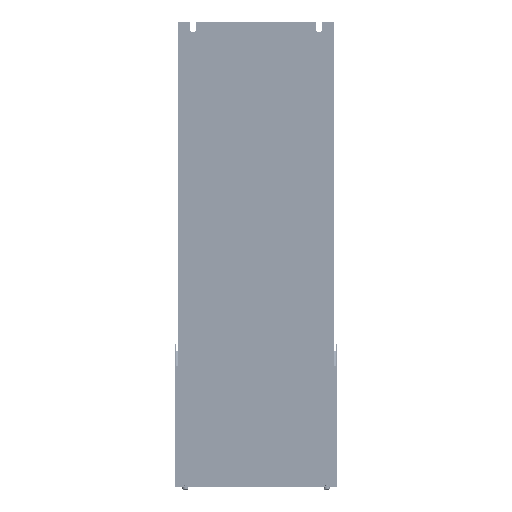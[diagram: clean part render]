
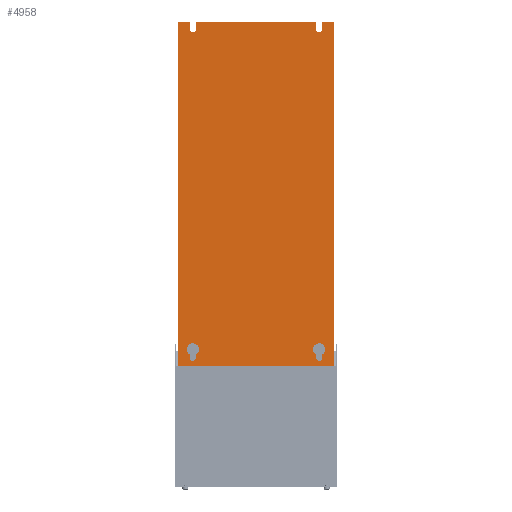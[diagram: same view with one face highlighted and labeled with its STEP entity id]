
A CAD part, front view. The second image highlights one B-rep face of the part: STEP entity #4958.
In plain terms, the highlighted planar face has unit normal (0, -1, 0).
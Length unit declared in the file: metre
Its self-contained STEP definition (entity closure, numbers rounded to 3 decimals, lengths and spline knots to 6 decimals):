
#4958=ADVANCED_FACE('',(#15051,#15052,#15053),#15054,.T.);
#15051=FACE_BOUND('',#35083,.T.);
#15052=FACE_OUTER_BOUND('',#35084,.T.);
#15053=FACE_BOUND('',#35085,.T.);
#15054=PLANE('',#35086);
#35083=EDGE_LOOP('',(#61775,#61776,#61777,#61778,#61779));
#35084=EDGE_LOOP('',(#61780,#61781,#61782,#61783,#61784,#61785,#61786,#61787,#61788,#61789,#61790,#61791));
#35085=EDGE_LOOP('',(#61792,#61793,#61794,#61795,#61796));
#35086=AXIS2_PLACEMENT_3D('',#61797,#61798,#61799);
#61775=ORIENTED_EDGE('',*,*,#128735,.T.);
#61776=ORIENTED_EDGE('',*,*,#129023,.T.);
#61777=ORIENTED_EDGE('',*,*,#129040,.T.);
#61778=ORIENTED_EDGE('',*,*,#129039,.T.);
#61779=ORIENTED_EDGE('',*,*,#129034,.T.);
#61780=ORIENTED_EDGE('',*,*,#131443,.T.);
#61781=ORIENTED_EDGE('',*,*,#128991,.F.);
#61782=ORIENTED_EDGE('',*,*,#129736,.F.);
#61783=ORIENTED_EDGE('',*,*,#129773,.T.);
#61784=ORIENTED_EDGE('',*,*,#129770,.T.);
#61785=ORIENTED_EDGE('',*,*,#129767,.F.);
#61786=ORIENTED_EDGE('',*,*,#131444,.F.);
#61787=ORIENTED_EDGE('',*,*,#131445,.T.);
#61788=ORIENTED_EDGE('',*,*,#131446,.T.);
#61789=ORIENTED_EDGE('',*,*,#131447,.F.);
#61790=ORIENTED_EDGE('',*,*,#131448,.F.);
#61791=ORIENTED_EDGE('',*,*,#131449,.T.);
#61792=ORIENTED_EDGE('',*,*,#128520,.T.);
#61793=ORIENTED_EDGE('',*,*,#131450,.T.);
#61794=ORIENTED_EDGE('',*,*,#131451,.T.);
#61795=ORIENTED_EDGE('',*,*,#131452,.T.);
#61796=ORIENTED_EDGE('',*,*,#131453,.T.);
#61797=CARTESIAN_POINT('',(-0.155,0.0,0.34));
#61798=DIRECTION('',(0.0,-1.0,0.0));
#61799=DIRECTION('',(0.0,0.0,-1.0));
#128520=EDGE_CURVE('',#153750,#153747,#153751,.T.);
#128735=EDGE_CURVE('',#154168,#154165,#154169,.T.);
#128991=EDGE_CURVE('',#154606,#154608,#154609,.T.);
#129023=EDGE_CURVE('',#154165,#154655,#154657,.T.);
#129034=EDGE_CURVE('',#154670,#154168,#154671,.T.);
#129039=EDGE_CURVE('',#154675,#154670,#154679,.T.);
#129040=EDGE_CURVE('',#154655,#154675,#154680,.T.);
#129736=EDGE_CURVE('',#155851,#154606,#155854,.T.);
#129767=EDGE_CURVE('',#155902,#155905,#155906,.T.);
#129770=EDGE_CURVE('',#155910,#155905,#155911,.T.);
#129773=EDGE_CURVE('',#155851,#155910,#155915,.T.);
#131443=EDGE_CURVE('',#158685,#154608,#158686,.T.);
#131444=EDGE_CURVE('',#158687,#155902,#158688,.T.);
#131445=EDGE_CURVE('',#158687,#158689,#158690,.T.);
#131446=EDGE_CURVE('',#158689,#158691,#158692,.T.);
#131447=EDGE_CURVE('',#158693,#158691,#158694,.T.);
#131448=EDGE_CURVE('',#158695,#158693,#158696,.T.);
#131449=EDGE_CURVE('',#158695,#158685,#158697,.T.);
#131450=EDGE_CURVE('',#153747,#158698,#158699,.T.);
#131451=EDGE_CURVE('',#158698,#158700,#158701,.T.);
#131452=EDGE_CURVE('',#158700,#158702,#158703,.T.);
#131453=EDGE_CURVE('',#158702,#153750,#158704,.T.);
#153747=VERTEX_POINT('',#194659);
#153750=VERTEX_POINT('',#194663);
#153751=CIRCLE('',#194664,0.012);
#154165=VERTEX_POINT('',#195274);
#154168=VERTEX_POINT('',#195278);
#154169=CIRCLE('',#195279,0.012);
#154606=VERTEX_POINT('',#195921);
#154608=VERTEX_POINT('',#195924);
#154609=LINE('',#195925,#195926);
#154655=VERTEX_POINT('',#195983);
#154657=CIRCLE('',#195986,0.012);
#154670=VERTEX_POINT('',#196005);
#154671=LINE('',#196006,#196007);
#154675=VERTEX_POINT('',#196013);
#154679=CIRCLE('',#196018,0.00575);
#154680=LINE('',#196019,#196020);
#155851=VERTEX_POINT('',#197865);
#155854=LINE('',#197869,#197870);
#155902=VERTEX_POINT('',#197947);
#155905=VERTEX_POINT('',#197951);
#155906=LINE('',#197952,#197953);
#155910=VERTEX_POINT('',#197959);
#155911=CIRCLE('',#197960,0.00575);
#155915=LINE('',#197965,#197966);
#158685=VERTEX_POINT('',#202350);
#158686=LINE('',#202351,#202352);
#158687=VERTEX_POINT('',#202353);
#158688=LINE('',#202354,#202355);
#158689=VERTEX_POINT('',#202356);
#158690=LINE('',#202357,#202358);
#158691=VERTEX_POINT('',#202359);
#158692=CIRCLE('',#202360,0.00575);
#158693=VERTEX_POINT('',#202361);
#158694=LINE('',#202362,#202363);
#158695=VERTEX_POINT('',#202364);
#158696=LINE('',#202365,#202366);
#158697=LINE('',#202367,#202368);
#158698=VERTEX_POINT('',#202369);
#158699=CIRCLE('',#202370,0.012);
#158700=VERTEX_POINT('',#202371);
#158701=LINE('',#202372,#202373);
#158702=VERTEX_POINT('',#202374);
#158703=CIRCLE('',#202375,0.00575);
#158704=LINE('',#202376,#202377);
#194659=CARTESIAN_POINT('',(-0.11925,0.0,-0.297467));
#194663=CARTESIAN_POINT('',(-0.13075,0.0,-0.318533));
#194664=AXIS2_PLACEMENT_3D('',#256780,#256781,#256782);
#195274=CARTESIAN_POINT('',(0.13075,0.0,-0.297467));
#195278=CARTESIAN_POINT('',(0.11925,0.0,-0.318533));
#195279=AXIS2_PLACEMENT_3D('',#257226,#257227,#257228);
#195921=CARTESIAN_POINT('',(0.155,0.0,0.34));
#195924=CARTESIAN_POINT('',(0.155,0.0,-0.34));
#195925=CARTESIAN_POINT('',(0.155,0.0,0.34));
#195926=VECTOR('',#257582,0.68);
#195983=CARTESIAN_POINT('',(0.13075,0.0,-0.318533));
#195986=AXIS2_PLACEMENT_3D('',#257652,#257653,#257654);
#196005=CARTESIAN_POINT('',(0.11925,0.0,-0.325));
#196006=CARTESIAN_POINT('',(0.11925,0.0,-0.325));
#196007=VECTOR('',#257673,0.006467);
#196013=CARTESIAN_POINT('',(0.13075,0.0,-0.325));
#196018=AXIS2_PLACEMENT_3D('',#257680,#257681,#257682);
#196019=CARTESIAN_POINT('',(0.13075,0.0,-0.318533));
#196020=VECTOR('',#257683,0.006467);
#197865=CARTESIAN_POINT('',(0.13075,0.0,0.34));
#197869=CARTESIAN_POINT('',(0.13075,0.0,0.34));
#197870=VECTOR('',#258419,0.02425);
#197947=CARTESIAN_POINT('',(0.11925,0.0,0.34));
#197951=CARTESIAN_POINT('',(0.11925,0.0,0.325));
#197952=CARTESIAN_POINT('',(0.11925,0.0,0.34));
#197953=VECTOR('',#258450,0.015);
#197959=CARTESIAN_POINT('',(0.13075,0.0,0.325));
#197960=AXIS2_PLACEMENT_3D('',#258453,#258454,#258455);
#197965=CARTESIAN_POINT('',(0.13075,0.0,0.34));
#197966=VECTOR('',#258460,0.015);
#202350=CARTESIAN_POINT('',(-0.155,0.0,-0.34));
#202351=CARTESIAN_POINT('',(-0.155,0.0,-0.34));
#202352=VECTOR('',#260310,0.31);
#202353=CARTESIAN_POINT('',(-0.11925,0.0,0.34));
#202354=CARTESIAN_POINT('',(-0.11925,0.0,0.34));
#202355=VECTOR('',#260311,0.2385);
#202356=CARTESIAN_POINT('',(-0.11925,0.0,0.325));
#202357=CARTESIAN_POINT('',(-0.11925,0.0,0.34));
#202358=VECTOR('',#260312,0.015);
#202359=CARTESIAN_POINT('',(-0.13075,0.0,0.325));
#202360=AXIS2_PLACEMENT_3D('',#260313,#260314,#260315);
#202361=CARTESIAN_POINT('',(-0.13075,0.0,0.34));
#202362=CARTESIAN_POINT('',(-0.13075,0.0,0.34));
#202363=VECTOR('',#260316,0.015);
#202364=CARTESIAN_POINT('',(-0.155,0.0,0.34));
#202365=CARTESIAN_POINT('',(-0.155,0.0,0.34));
#202366=VECTOR('',#260317,0.02425);
#202367=CARTESIAN_POINT('',(-0.155,0.0,0.34));
#202368=VECTOR('',#260318,0.68);
#202369=CARTESIAN_POINT('',(-0.11925,0.0,-0.318533));
#202370=AXIS2_PLACEMENT_3D('',#260319,#260320,#260321);
#202371=CARTESIAN_POINT('',(-0.11925,0.0,-0.325));
#202372=CARTESIAN_POINT('',(-0.11925,0.0,-0.318533));
#202373=VECTOR('',#260322,0.006467);
#202374=CARTESIAN_POINT('',(-0.13075,0.0,-0.325));
#202375=AXIS2_PLACEMENT_3D('',#260323,#260324,#260325);
#202376=CARTESIAN_POINT('',(-0.13075,0.0,-0.325));
#202377=VECTOR('',#260326,0.006467);
#256780=CARTESIAN_POINT('',(-0.125,0.0,-0.308));
#256781=DIRECTION('',(0.0,1.0,0.0));
#256782=DIRECTION('',(-0.479,0.0,-0.878));
#257226=CARTESIAN_POINT('',(0.125,0.0,-0.308));
#257227=DIRECTION('',(0.0,1.0,0.0));
#257228=DIRECTION('',(-0.479,0.0,-0.878));
#257582=DIRECTION('',(0.0,0.0,-1.0));
#257652=CARTESIAN_POINT('',(0.125,0.0,-0.308));
#257653=DIRECTION('',(0.0,1.0,0.0));
#257654=DIRECTION('',(-0.479,0.0,-0.878));
#257673=DIRECTION('',(0.0,0.0,1.0));
#257680=CARTESIAN_POINT('',(0.125,0.0,-0.325));
#257681=DIRECTION('',(-0.0,1.0,0.0));
#257682=DIRECTION('',(1.0,0.0,0.0));
#257683=DIRECTION('',(0.,0.0,-1.0));
#258419=DIRECTION('',(1.0,0.0,0.0));
#258450=DIRECTION('',(0.0,0.0,-1.0));
#258453=CARTESIAN_POINT('',(0.125,0.0,0.325));
#258454=DIRECTION('',(-0.0,1.0,0.0));
#258455=DIRECTION('',(1.0,0.0,0.0));
#258460=DIRECTION('',(0.0,0.0,-1.0));
#260310=DIRECTION('',(1.0,0.0,0.0));
#260311=DIRECTION('',(1.0,0.0,0.0));
#260312=DIRECTION('',(0.0,0.0,-1.0));
#260313=CARTESIAN_POINT('',(-0.125,0.0,0.325));
#260314=DIRECTION('',(-0.0,1.0,0.0));
#260315=DIRECTION('',(1.0,0.0,0.0));
#260316=DIRECTION('',(0.0,0.0,-1.0));
#260317=DIRECTION('',(1.0,0.0,0.0));
#260318=DIRECTION('',(0.0,0.0,-1.0));
#260319=CARTESIAN_POINT('',(-0.125,0.0,-0.308));
#260320=DIRECTION('',(0.0,1.0,0.0));
#260321=DIRECTION('',(-0.479,0.0,-0.878));
#260322=DIRECTION('',(0.,0.0,-1.0));
#260323=CARTESIAN_POINT('',(-0.125,0.0,-0.325));
#260324=DIRECTION('',(-0.0,1.0,0.0));
#260325=DIRECTION('',(1.0,0.0,0.0));
#260326=DIRECTION('',(0.0,0.0,1.0));
